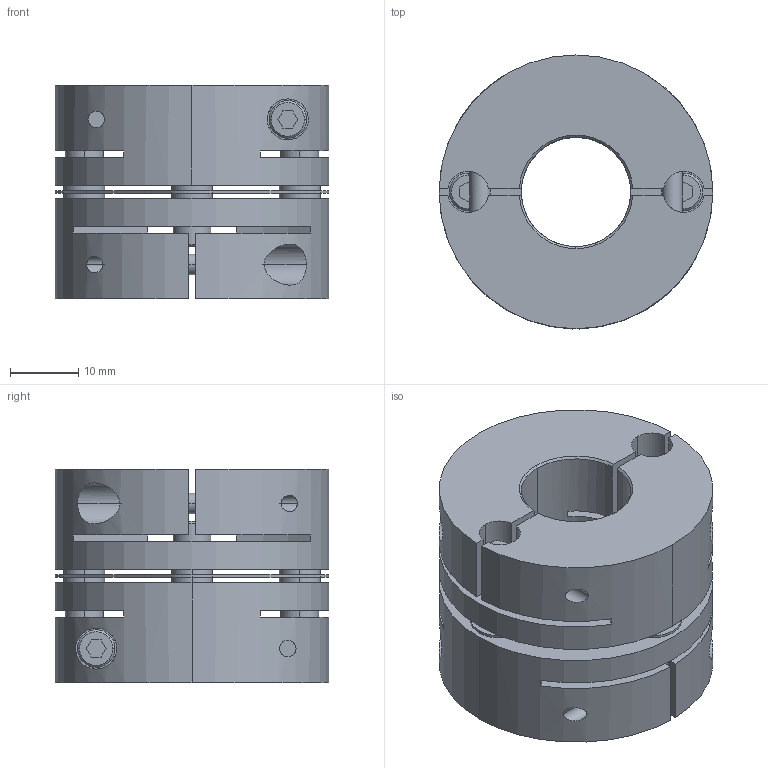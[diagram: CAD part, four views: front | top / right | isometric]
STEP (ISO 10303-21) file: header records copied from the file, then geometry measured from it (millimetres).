
FILE_DESCRIPTION((''),'2;1');
FILE_NAME('LAS-40C-16×16.stp','2011-08-11T09:08:33',(''),(''),'AutoCAD STEP 2000i','AutoCAD 2000i',', , ');
FILE_SCHEMA(('CONFIG_CONTROL_DESIGN'));
Length unit declared in the file: millimetre
Products named in the file (7): LAS-40C-15×15; 忣兜1; LA-4002-D15-1; LA-4002-D15; LA-4002-D10-1; LA-4002-D10; LAS40-ITA
Assembly tree (6 placements, depth 2):
  LAS-40C-15×15
    忣兜1
    LA-4002-D15-1
    LA-4002-D15
    LA-4002-D10-1
    LA-4002-D10
    LAS40-ITA
Bounding box: 40 x 40 x 31.2 mm (x, y, z)
Volume: 28379 mm3; surface area: 15063.3 mm2
Topology: 1 solids, 1 shells, 236 faces, 624 edges, 408 vertices
Faces by surface type: plane 112, cylinder 96, cone 28
Entity records: 8247 total; most frequent: CARTESIAN_POINT 2027, DIRECTION 1306, ORIENTED_EDGE 1248, EDGE_CURVE 624, AXIS2_PLACEMENT_3D 479, VERTEX_POINT 408, VECTOR 348, LINE 348
